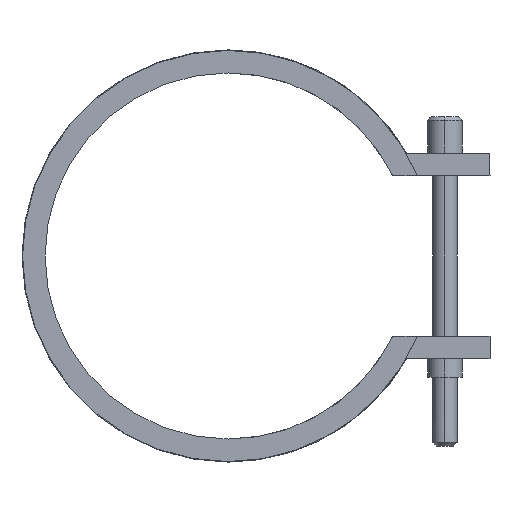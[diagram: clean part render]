
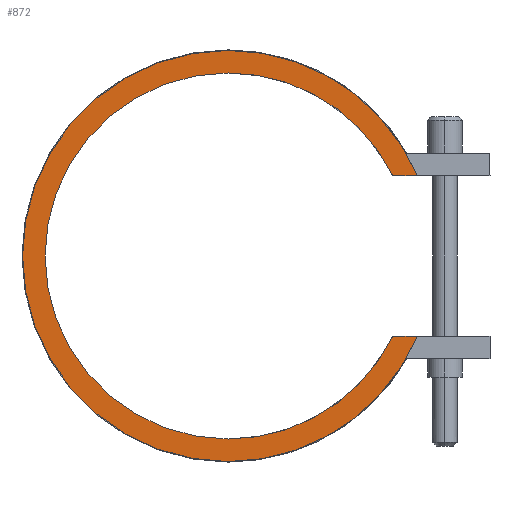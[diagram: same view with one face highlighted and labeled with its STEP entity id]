
A CAD part, left-side view. The second image highlights one B-rep face of the part: STEP entity #872.
In plain terms, the highlighted planar face has unit normal (-1, 0, 0).
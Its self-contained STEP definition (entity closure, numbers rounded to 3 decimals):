
#410=CARTESIAN_POINT('Vertex',(-30.,-29.209,-14.25)) ;
#413=CARTESIAN_POINT('Line Origine',(-30.,-31.406,-14.25)) ;
#417=CARTESIAN_POINT('Vertex',(-30.,-33.603,-14.25)) ;
#463=CARTESIAN_POINT('Vertex',(-30.,0.,-36.5)) ;
#466=CARTESIAN_POINT('Axis2P3D Location',(-30.,0.,0.)) ;
#487=CARTESIAN_POINT('Vertex',(-30.,0.,36.5)) ;
#490=CARTESIAN_POINT('Axis2P3D Location',(-30.,0.,0.)) ;
#502=CARTESIAN_POINT('Axis2P3D Location',(-30.,0.,0.)) ;
#506=CARTESIAN_POINT('Vertex',(-30.,-33.603,14.25)) ;
#526=CARTESIAN_POINT('Line Origine',(-30.,-31.406,14.25)) ;
#530=CARTESIAN_POINT('Vertex',(-30.,-29.209,14.25)) ;
#818=CARTESIAN_POINT('Axis2P3D Location',(-30.,0.,0.)) ;
#822=CARTESIAN_POINT('Vertex',(-30.,0.,-32.5)) ;
#845=CARTESIAN_POINT('Axis2P3D Location',(-30.,0.,0.)) ;
#850=CARTESIAN_POINT('Axis2P3D Location',(-30.,0.,0.)) ;
#854=CARTESIAN_POINT('Vertex',(-30.,0.,32.5)) ;
#857=CARTESIAN_POINT('Axis2P3D Location',(-30.,0.,0.)) ;
#414=DIRECTION('Vector Direction',(0.,1.,0.)) ;
#467=DIRECTION('Axis2P3D Direction',(1.,0.,-0.)) ;
#491=DIRECTION('Axis2P3D Direction',(1.,0.,-0.)) ;
#503=DIRECTION('Axis2P3D Direction',(1.,0.,-0.)) ;
#527=DIRECTION('Vector Direction',(0.,-1.,0.)) ;
#819=DIRECTION('Axis2P3D Direction',(1.,0.,-0.)) ;
#846=DIRECTION('Axis2P3D Direction',(1.,0.,0.)) ;
#847=DIRECTION('Axis2P3D XDirection',(0.,0.,-1.)) ;
#851=DIRECTION('Axis2P3D Direction',(1.,0.,0.)) ;
#858=DIRECTION('Axis2P3D Direction',(1.,0.,0.)) ;
#468=AXIS2_PLACEMENT_3D('Circle Axis2P3D',#466,#467,$) ;
#492=AXIS2_PLACEMENT_3D('Circle Axis2P3D',#490,#491,$) ;
#504=AXIS2_PLACEMENT_3D('Circle Axis2P3D',#502,#503,$) ;
#820=AXIS2_PLACEMENT_3D('Circle Axis2P3D',#818,#819,$) ;
#848=AXIS2_PLACEMENT_3D('Plane Axis2P3D',#845,#846,#847) ;
#852=AXIS2_PLACEMENT_3D('Circle Axis2P3D',#850,#851,$) ;
#859=AXIS2_PLACEMENT_3D('Circle Axis2P3D',#857,#858,$) ;
#863=ORIENTED_EDGE('',*,*,#419,.T.) ;
#864=ORIENTED_EDGE('',*,*,#824,.T.) ;
#865=ORIENTED_EDGE('',*,*,#856,.T.) ;
#866=ORIENTED_EDGE('',*,*,#861,.T.) ;
#867=ORIENTED_EDGE('',*,*,#532,.T.) ;
#868=ORIENTED_EDGE('',*,*,#508,.F.) ;
#869=ORIENTED_EDGE('',*,*,#494,.F.) ;
#870=ORIENTED_EDGE('',*,*,#470,.F.) ;
#415=VECTOR('Line Direction',#414,1.) ;
#528=VECTOR('Line Direction',#527,1.) ;
#872=ADVANCED_FACE('14065060',(#871),#849,.F.) ;
#469=CIRCLE('generated circle',#468,36.5) ;
#493=CIRCLE('generated circle',#492,36.5) ;
#505=CIRCLE('generated circle',#504,36.5) ;
#821=CIRCLE('generated circle',#820,32.5) ;
#853=CIRCLE('generated circle',#852,32.5) ;
#860=CIRCLE('generated circle',#859,32.5) ;
#419=EDGE_CURVE('',#418,#411,#416,.T.) ;
#470=EDGE_CURVE('',#418,#464,#469,.T.) ;
#494=EDGE_CURVE('',#464,#488,#493,.T.) ;
#508=EDGE_CURVE('',#488,#507,#505,.T.) ;
#532=EDGE_CURVE('',#531,#507,#529,.T.) ;
#824=EDGE_CURVE('',#411,#823,#821,.T.) ;
#856=EDGE_CURVE('',#823,#855,#853,.T.) ;
#861=EDGE_CURVE('',#855,#531,#860,.T.) ;
#862=EDGE_LOOP('',(#863,#864,#865,#866,#867,#868,#869,#870)) ;
#871=FACE_OUTER_BOUND('',#862,.T.) ;
#416=LINE('Line',#413,#415) ;
#529=LINE('Line',#526,#528) ;
#849=PLANE('Plane',#848) ;
#411=VERTEX_POINT('',#410) ;
#418=VERTEX_POINT('',#417) ;
#464=VERTEX_POINT('',#463) ;
#488=VERTEX_POINT('',#487) ;
#507=VERTEX_POINT('',#506) ;
#531=VERTEX_POINT('',#530) ;
#823=VERTEX_POINT('',#822) ;
#855=VERTEX_POINT('',#854) ;
